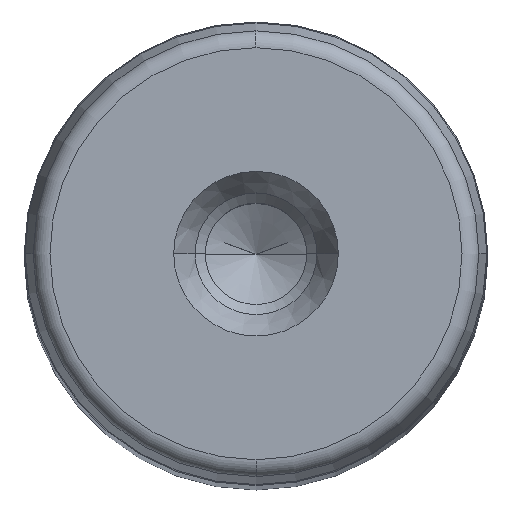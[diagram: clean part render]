
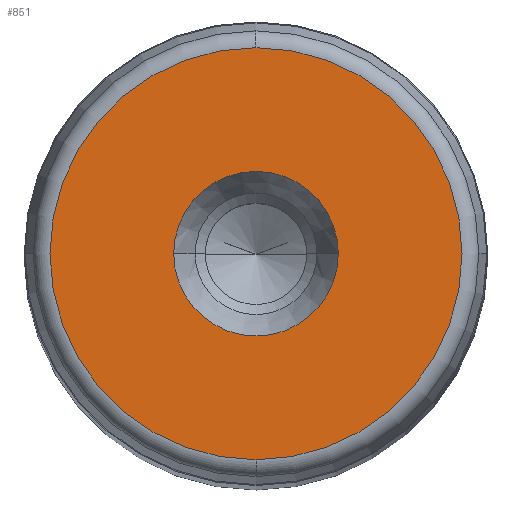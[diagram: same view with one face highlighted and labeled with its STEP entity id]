
A CAD part, top view. The second image highlights one B-rep face of the part: STEP entity #851.
In plain terms, the highlighted planar face has unit normal (0, 0, 1) as drawn and (0, 1, 0) by its records, which use the part's own axes.
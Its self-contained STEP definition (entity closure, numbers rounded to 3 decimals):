
#281=CARTESIAN_POINT('',(14.2,450.0,0.0));
#282=VERTEX_POINT('',#281);
#289=CARTESIAN_POINT('',(-14.2,450.0,0.));
#290=VERTEX_POINT('',#289);
#291=CARTESIAN_POINT('',(0.0,450.0,0.0));
#292=DIRECTION('',(0.0,1.0,0.0));
#293=DIRECTION('',(1.0,0.0,0.0));
#294=AXIS2_PLACEMENT_3D('',#291,#292,#293);
#295=CIRCLE('',#294,14.2);
#296=EDGE_CURVE('',#282,#290,#295,.T.);
#313=CARTESIAN_POINT('',(0.0,450.,35.554));
#314=VERTEX_POINT('',#313);
#324=CARTESIAN_POINT('',(0.,450.,-35.554));
#325=VERTEX_POINT('',#324);
#326=CARTESIAN_POINT('',(0.0,450.,0.0));
#327=DIRECTION('',(0.0,1.0,0.0));
#328=DIRECTION('',(1.0,0.0,0.0));
#329=AXIS2_PLACEMENT_3D('',#326,#327,#328);
#330=CIRCLE('',#329,35.554);
#331=EDGE_CURVE('',#325,#314,#330,.T.);
#812=CARTESIAN_POINT('',(35.554,450.,0.0));
#813=VERTEX_POINT('',#812);
#814=CARTESIAN_POINT('',(0.0,450.,0.0));
#815=DIRECTION('',(0.0,1.0,0.0));
#816=DIRECTION('',(1.0,0.0,0.0));
#817=AXIS2_PLACEMENT_3D('',#814,#815,#816);
#818=CIRCLE('',#817,35.554);
#819=EDGE_CURVE('',#813,#325,#818,.T.);
#821=CARTESIAN_POINT('',(0.0,450.,0.0));
#822=DIRECTION('',(0.0,1.0,0.0));
#823=DIRECTION('',(1.0,0.0,0.0));
#824=AXIS2_PLACEMENT_3D('',#821,#822,#823);
#825=CIRCLE('',#824,35.554);
#826=EDGE_CURVE('',#314,#813,#825,.T.);
#831=CARTESIAN_POINT('',(-39.11,450.0,-39.11));
#832=DIRECTION('',(0.0,1.0,0.0));
#833=DIRECTION('',(0.0,0.0,1.0));
#834=AXIS2_PLACEMENT_3D('',#831,#832,#833);
#835=PLANE('',#834);
#836=ORIENTED_EDGE('',*,*,#819,.T.);
#837=ORIENTED_EDGE('',*,*,#331,.T.);
#838=ORIENTED_EDGE('',*,*,#826,.T.);
#839=EDGE_LOOP('',(#836,#837,#838));
#840=FACE_OUTER_BOUND('',#839,.T.);
#841=ORIENTED_EDGE('',*,*,#296,.F.);
#842=CARTESIAN_POINT('',(0.0,450.0,0.0));
#843=DIRECTION('',(0.0,1.0,0.0));
#844=DIRECTION('',(1.0,0.0,0.0));
#845=AXIS2_PLACEMENT_3D('',#842,#843,#844);
#846=CIRCLE('',#845,14.2);
#847=EDGE_CURVE('',#290,#282,#846,.T.);
#848=ORIENTED_EDGE('',*,*,#847,.F.);
#849=EDGE_LOOP('',(#841,#848));
#850=FACE_BOUND('',#849,.T.);
#851=ADVANCED_FACE('',(#840,#850),#835,.T.);
